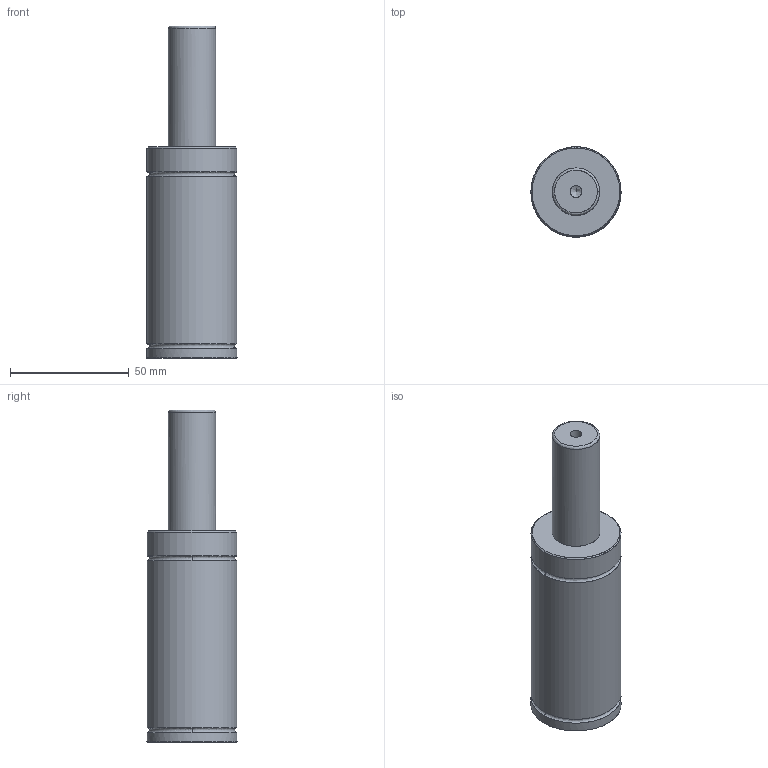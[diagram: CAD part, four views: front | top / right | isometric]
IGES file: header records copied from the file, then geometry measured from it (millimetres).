
Start section: VISI Layer Mapping Iges    VISI  0      LAYER_EMPTY  1      wwww  7      W_PD700  8      S_PD700  10     W_PD1000  11     S_PD1000  13     W_PD2000  14     S_PD2000  16     W_PD3000  17     S_PD3000  19     W_PD4000  20     S_PD4000  22     W_PD7000  23     S_PD7000  28     W_350  29     MS-350  30     MC-350  31     MP-350  32     MB-350  33     MH-350  34     MK-350  35     MPL-350  39     W_500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
Global section: file name: E:\だ錶臢\だ錶臢3D\SYLINDER\PT Series\PT500\PT500\PT500-50.igs; native system: VISI 16.0; preprocessor: 2.0; author: 11; organization: 0; date: 500.; units: mil
Bounding box: 38 x 38 x 140 mm (x, y, z)
Surface area: 17154.4 mm2 (no closed solid volume)
Topology: 0 solids, 0 shells, 19 faces, 221 edges, 196 vertices
Faces by surface type: bspline 19
